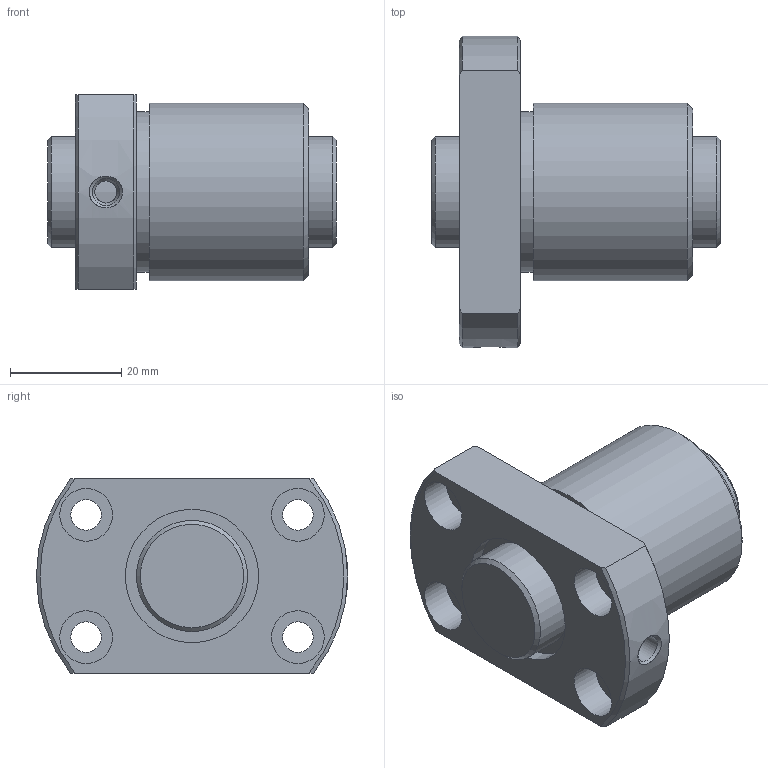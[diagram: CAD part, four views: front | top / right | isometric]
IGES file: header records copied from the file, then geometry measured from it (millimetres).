
Start section: Data from Parasolid IGES Translator 26.0.171, Copyright(c) 2006 Siemens PLM Software. All Rights Reserved.
Global section: file name: DK2004-3RRG1+52LC0_000.igs; native system: By Siemens PLM Incorporated; preprocessor: XPlus GENERIC/IGES 26.0.171; author: Noname; organization: Noname; date: 20250113.090807; units: millimetre
Bounding box: 52 x 56 x 35 mm (x, y, z)
Surface area: 15703.7 mm2 (no closed solid volume)
Topology: 0 solids, 0 shells, 41 faces, 174 edges, 143 vertices
Faces by surface type: revolution 27, extrusion 14
